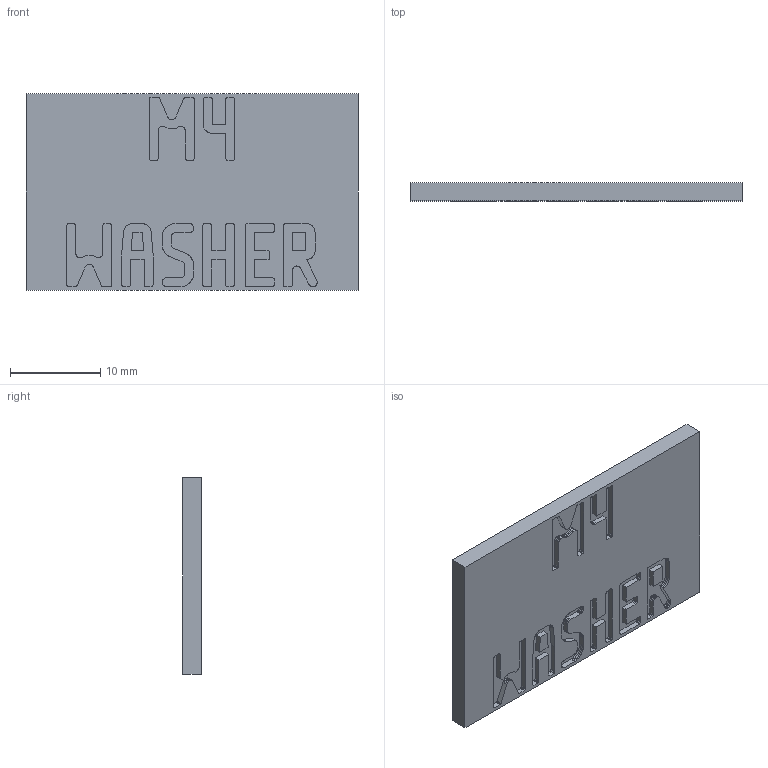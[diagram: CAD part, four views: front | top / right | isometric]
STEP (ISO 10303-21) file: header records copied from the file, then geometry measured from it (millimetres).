
FILE_DESCRIPTION(('Open CASCADE Model'),'2;1');
FILE_NAME('Open CASCADE Shape Model','2026-11-03T17:10:40',('Author'),( 'Open CASCADE'),'Open CASCADE STEP processor 8.0','build123d', 'Unknown');
FILE_SCHEMA(('AUTOMOTIVE_DESIGN { 1 0 10303 214 1 1 1 1 }'));
Length unit declared in the file: millimetre
Products named in the file (2): =>[0:1:1:2]; COMPOUND
Assembly tree (1 placements, depth 2):
  =>[0:1:1:2]
    COMPOUND
Bounding box: 36.8 x 2 x 21.8 mm (x, y, z)
Volume: 1529 mm3; surface area: 1984.4 mm2
Topology: 1 solids, 1 shells, 824 faces, 2436 edges, 1624 vertices
Faces by surface type: plane 824
Entity records: 58616 total; most frequent: CARTESIAN_POINT 9758, DIRECTION 8960, LINE 7308, VECTOR 7308, ORIENTED_EDGE 4872, PCURVE 4872, DEFINITIONAL_REPRESENTATION 4872, EDGE_CURVE 2436
